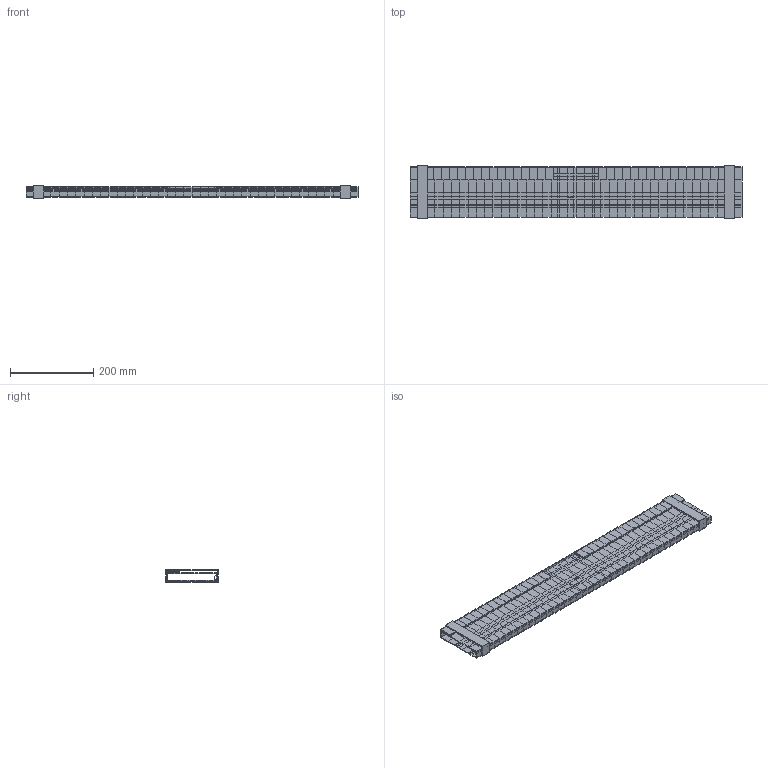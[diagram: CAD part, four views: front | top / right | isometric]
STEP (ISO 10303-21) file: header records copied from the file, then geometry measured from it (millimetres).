
FILE_DESCRIPTION(('AVO Performance Horse - montaje de la cincha (B-rep poliedrico)'),'2;1');
FILE_NAME('Funda','2026-11-15T12:00:00',('AVO Performance Horse'),('AVO Performance Horse'),'avo_cad.py','avo_cad.py (numpy)','');
FILE_SCHEMA(('AUTOMOTIVE_DESIGN { 1 0 10303 214 1 1 1 1 }'));
Length unit declared in the file: millimetre
Products named in the file (1): Funda
Bounding box: 800 x 126.4 x 29.3 mm (x, y, z)
Volume: 555734.2 mm3; surface area: 775995.8 mm2
Topology: 16 solids, 16 shells, 4706 faces, 9432 edges, 4734 vertices
Faces by surface type: plane 4706
Entity records: 80466 total; most frequent: ORIENTED_EDGE 18864, VECTOR 9432, LINE 9432, EDGE_CURVE 9432, CARTESIAN_POINT 4735, VERTEX_POINT 4734, EDGE_LOOP 4710, AXIS2_PLACEMENT_3D 4707
